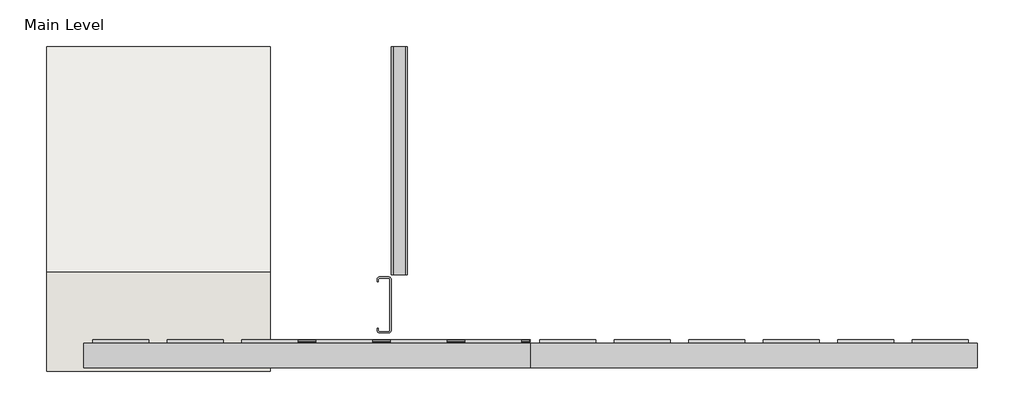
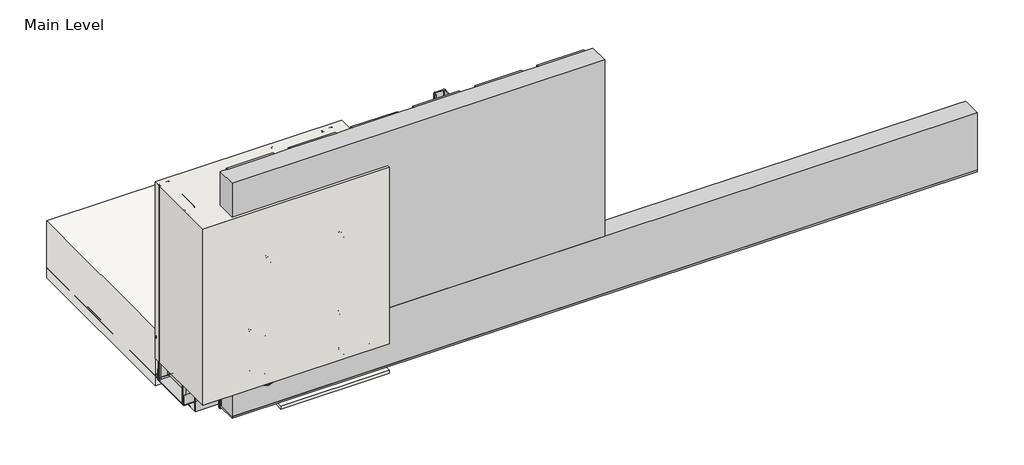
# One storey, incomplete: 18 proxies, 2 coverings, 1 wall.
"""IFC4 building model written with IfcOpenShell, lengths in millimetres."""

from ifc_helpers import new_model, si_unit, frame, origin, origin_with_axes, place, context, project, spatial, polyline, outline, extrude, transform, mapped, element, save
from components import generic_models_9a115d84, generic_models_8c792c9c, generic_models_2e656d56, generic_models_47e8b319, proxy_215900e5, proxy_691c8b69, proxy_63d6b373, soffit_box_soffit_box_c2691520, wood_blocking_c9818c35, wood_blocking_63bdfc83

model = new_model("IFC4")

# Units and contexts
model_context = context("Model", 3, world=origin())
ifc_project = project(units=[si_unit("LENGTHUNIT", "METRE", prefix="MILLI")], contexts=[model_context])

# Site, building, storey
site = spatial("IfcSite", under=ifc_project)
building = spatial("IfcBuilding", under=site)
storey = spatial("IfcBuildingStorey", under=building, Name="Main Level", Elevation=0.0)

# Proxies
placement = place(None, origin())
generic_models_shape = generic_models_9a115d84(model_context)
element("IfcBuildingElementProxy", 1, Name="CRAi Generic Model Metal Stud Array : CRAi Generic Model Metal Stud Array", ObjectType="CRAi Generic Model Metal Stud Array : CRAi Generic Model Metal Stud Array", at=placement, inside=storey, context=model_context, shape_type="MappedRepresentation", body=[
    mapped(generic_models_shape, transform((26692.3726773, 719.7066297, -60.325), x_axis=(-1.0, 0.0, 0.0), y_axis=(0.0, -1.0, 0.0), z_axis=(0.0, 0.0, 1.0))),
])
element("IfcBuildingElementProxy", 2, Name="CRAi Generic Model Metal Stud Array : CRAi Generic Model Metal Stud Array", ObjectType="CRAi Generic Model Metal Stud Array : CRAi Generic Model Metal Stud Array", at=placement, inside=storey, context=model_context, shape_type="MappedRepresentation", body=[
    mapped(generic_models_shape, transform((27225.7726773, 719.7066297, -60.325), x_axis=(-1.0, 0.0, 0.0), y_axis=(0.0, -1.0, 0.0), z_axis=(0.0, 0.0, 1.0))),
])
generic_models_2_shape = generic_models_8c792c9c(model_context)
element("IfcBuildingElementProxy", 3, Name="Durabond Generic Model Screw w Standard Wall Plate : Durabond Generic Model Screw w Standard Wall Plate", ObjectType="Durabond Generic Model Screw w Standard Wall Plate : Durabond Generic Model Screw w Standard Wall Plate", at=placement, inside=storey, context=model_context, shape_type="MappedRepresentation", body=[
    mapped(generic_models_2_shape, transform((26653.4789273, 547.4628797, 47.625), x_axis=(1.0, 0.0, 0.0), y_axis=(0.0, 0.0, 1.0), z_axis=(0.0, -1.0, 0.0))),
])
element("IfcBuildingElementProxy", 4, Name="Durabond Generic Model Screw w Standard Wall Plate : Durabond Generic Model Screw w Standard Wall Plate", ObjectType="Durabond Generic Model Screw w Standard Wall Plate : Durabond Generic Model Screw w Standard Wall Plate", at=placement, inside=storey, context=model_context, shape_type="MappedRepresentation", body=[
    mapped(generic_models_2_shape, transform((26705.0726773, 544.2878797, 15.875), x_axis=(1.0, 0.0, 0.0), y_axis=(0.0, 0.0, 1.0), z_axis=(0.0, -1.0, 0.0))),
])
element("IfcBuildingElementProxy", 5, Name="Durabond Generic Model Screw w Standard Wall Plate : Durabond Generic Model Screw w Standard Wall Plate", ObjectType="Durabond Generic Model Screw w Standard Wall Plate : Durabond Generic Model Screw w Standard Wall Plate", at=placement, inside=storey, context=model_context, shape_type="MappedRepresentation", body=[
    mapped(generic_models_2_shape, transform((26705.0726773, 544.2878797, 149.225), x_axis=(1.0, 0.0, 0.0), y_axis=(0.0, 0.0, 1.0), z_axis=(0.0, -1.0, 0.0))),
])
element("IfcBuildingElementProxy", 6, Name="Durabond Generic Model Screw w Standard Wall Plate : Durabond Generic Model Screw w Standard Wall Plate", ObjectType="Durabond Generic Model Screw w Standard Wall Plate : Durabond Generic Model Screw w Standard Wall Plate", at=placement, inside=storey, context=model_context, shape_type="MappedRepresentation", body=[
    mapped(generic_models_2_shape, transform((26705.0726773, 544.2878797, 428.625), x_axis=(1.0, 0.0, 0.0), y_axis=(0.0, 0.0, 1.0), z_axis=(0.0, -1.0, 0.0))),
])
element("IfcBuildingElementProxy", 7, Name="Durabond Generic Model Screw w Standard Wall Plate : Durabond Generic Model Screw w Standard Wall Plate", ObjectType="Durabond Generic Model Screw w Standard Wall Plate : Durabond Generic Model Screw w Standard Wall Plate", at=placement, inside=storey, context=model_context, shape_type="MappedRepresentation", body=[
    mapped(generic_models_2_shape, transform((26945.5789273, 544.2878797, 428.625), x_axis=(1.0, 0.0, 0.0), y_axis=(0.0, 0.0, 1.0), z_axis=(0.0, -1.0, 0.0))),
])
element("IfcBuildingElementProxy", 8, Name="Durabond Generic Model Screw w Standard Wall Plate : Durabond Generic Model Screw w Standard Wall Plate", ObjectType="Durabond Generic Model Screw w Standard Wall Plate : Durabond Generic Model Screw w Standard Wall Plate", at=placement, inside=storey, context=model_context, shape_type="MappedRepresentation", body=[
    mapped(generic_models_2_shape, transform((26653.4789273, 547.4628797, 193.675), x_axis=(1.0, 0.0, 0.0), y_axis=(0.0, 0.0, 1.0), z_axis=(0.0, -1.0, 0.0))),
])
element("IfcBuildingElementProxy", 9, Name="Durabond Generic Model Screw w Standard Wall Plate : Durabond Generic Model Screw w Standard Wall Plate", ObjectType="Durabond Generic Model Screw w Standard Wall Plate : Durabond Generic Model Screw w Standard Wall Plate", at=placement, inside=storey, context=model_context, shape_type="MappedRepresentation", body=[
    mapped(generic_models_2_shape, transform((26945.5789273, 544.2878797, 149.225), x_axis=(1.0, 0.0, 0.0), y_axis=(0.0, 0.0, 1.0), z_axis=(0.0, -1.0, 0.0))),
])
element("IfcBuildingElementProxy", 10, Name="Durabond Generic Model Screw w Standard Wall Plate : Durabond Generic Model Screw w Standard Wall Plate", ObjectType="Durabond Generic Model Screw w Standard Wall Plate : Durabond Generic Model Screw w Standard Wall Plate", at=placement, inside=storey, context=model_context, shape_type="MappedRepresentation", body=[
    mapped(generic_models_2_shape, transform((26945.5789273, 544.2878797, 23.8125), x_axis=(1.0, 0.0, 0.0), y_axis=(0.0, 0.0, 1.0), z_axis=(0.0, -1.0, 0.0))),
])
generic_models_3_shape = generic_models_2e656d56(model_context)
generic_models_4_shape = generic_models_47e8b319(model_context)
element("IfcBuildingElementProxy", 11, Name="Durabond Generic Soffit Drainage Vent : Durabond Generic Soffit Drainage Vent", ObjectType="Durabond Generic Soffit Drainage Vent : Durabond Generic Soffit Drainage Vent", at=placement, inside=storey, context=model_context, shape_type="MappedRepresentation", body=[
    mapped(generic_models_3_shape, transform((27199.3497774, 619.6941297, -93.6625), x_axis=(1.0, 0.0, 0.0), y_axis=(0.0, 1.0, 0.0), z_axis=(0.0, 0.0, 1.0))),
    mapped(generic_models_4_shape, transform((27199.3497774, 619.6941297, -93.6625), x_axis=(1.0, 0.0, 0.0), y_axis=(0.0, 1.0, 0.0), z_axis=(0.0, 0.0, 1.0))),
])
proxy_shape = proxy_215900e5(model_context)
element("IfcBuildingElementProxy", 12, Name="Durabond Generic Model Insulite Select Extruded Insulation Board : 3\"", ObjectType="Durabond Generic Model Insulite Select Extruded Insulation Board : 3\"", at=placement, inside=storey, context=model_context, shape_type="MappedRepresentation", body=[
    mapped(proxy_shape, transform((27199.5789273, 624.4566297, 422.275), x_axis=(1.0, 0.0, 0.0), y_axis=(0.0, 0.0, 1.0), z_axis=(0.0, -1.0, 0.0))),
])
proxy_2_shape = proxy_691c8b69(model_context)
element("IfcBuildingElementProxy", 13, Name="Durabond Generic Model Insulite Select Extruded Vent Board : 3\"", ObjectType="Durabond Generic Model Insulite Select Extruded Vent Board : 3\"", at=placement, inside=storey, context=model_context, shape_type="MappedRepresentation", body=[
    mapped(proxy_2_shape, transform((27809.1789273, 624.4566297, 15.875), x_axis=(1.0, 0.0, 0.0), y_axis=(0.0, 0.0, 1.0), z_axis=(0.0, -1.0, 0.0))),
])
proxy_3_shape = proxy_63d6b373(model_context)
element("IfcBuildingElementProxy", 14, Name="Durabond Generic Model Corner 90 Membrane : 4\" Barrier Seam Tape", ObjectType="Durabond Generic Model Corner 90 Membrane : 4\" Barrier Seam Tape", at=placement, inside=storey, context=model_context, shape_type="MappedRepresentation", body=[
    mapped(proxy_3_shape, transform((26514.5726773, 627.6316297, -82.55), x_axis=(0.0, 0.0, -1.0), y_axis=(0.0, 1.0, 0.0), z_axis=(1.0, 0.0, 0.0))),
])
soffit_box_soffit_box_shape = soffit_box_soffit_box_c2691520(model_context)
element("IfcBuildingElementProxy", 15, Name="Soffit Box : Soffit Box", ObjectType="Soffit Box : Soffit Box", at=placement, inside=storey, context=model_context, shape_type="MappedRepresentation", body=[
    mapped(soffit_box_soffit_box_shape, transform((0.0, -6.35, 0.0), x_axis=(1.0, 0.0, 0.0), y_axis=(0.0, 1.0, 0.0), z_axis=(0.0, 0.0, 1.0))),
])
element("IfcBuildingElementProxy", 16, Name="Soffit Box1 : Soffit Box", ObjectType="Soffit Box1 : Soffit Box", at=placement, inside=storey, context=model_context, shape_type="MappedRepresentation", body=[
    mapped(soffit_box_soffit_box_shape, transform((533.4, -6.35, 0.0), x_axis=(1.0, 0.0, 0.0), y_axis=(0.0, 1.0, 0.0), z_axis=(0.0, 0.0, 1.0))),
])
wood_blocking_shape = wood_blocking_c9818c35(model_context)
element("IfcBuildingElementProxy", 17, Name="CRAi Generic Model Line Based Metal Framing Track : Wood Blocking", ObjectType="CRAi Generic Model Line Based Metal Framing Track : Wood Blocking", at=placement, inside=storey, context=model_context, shape_type="MappedRepresentation", body=[
    mapped(wood_blocking_shape, transform((26489.1726773, 643.5066297, -66.675), x_axis=(1.0, 0.0, 0.0), y_axis=(0.0, 1.0, 0.0), z_axis=(0.0, 0.0, 1.0))),
])
wood_blocking_2_shape = wood_blocking_63bdfc83(model_context)
element("IfcBuildingElementProxy", 18, Name="CRAi Generic Model Line Based Metal Framing Track : Wood Blocking", ObjectType="CRAi Generic Model Line Based Metal Framing Track : Wood Blocking", at=placement, inside=storey, context=model_context, shape_type="MappedRepresentation", body=[
    mapped(wood_blocking_2_shape, transform((26491.8622441, 795.9066297, 85.725), x_axis=(1.0, 0.0, 0.0), y_axis=(0.0, 0.0, -1.0), z_axis=(0.0, 1.0, 0.0))),
])

# Coverings
element("IfcCovering", 19, ObjectType="Durabond Detail Ceiling 3 Metal Stud", at=placement, inside=storey, context=model_context, shape_type="SweptSolid", body=[
    extrude(outline(polyline([(27098.7726773, 808.6066297), (26489.1726773, 808.6066297), (26489.1726773, 1424.5566297), (27098.7726773, 1424.5566297), (27098.7726773, 808.6066297)])), frame((0.0, 0.0, -95.25), z_axis=(0.0, 0.0, 1.0), x_axis=(1.0, 0.0, 0.0)), (0.0, 0.0, 1.0), 196.85),
])
element("IfcCovering", 20, ObjectType="Durabond Stucco Lamina", at=placement, inside=storey, context=model_context, shape_type="SweptSolid", body=[
    extrude(outline(polyline([(538.7316297, -92.3552522), (614.9316297, -85.688616), (614.9316297, -95.25), (538.7316297, -101.9166362), (538.7316297, -92.3552522)])), frame((26743.1726773, 0.0, 0.0), z_axis=(1.0, 0.0, 0.0), x_axis=(0.0, 1.0, 0.0)), (0.0, 0.0, 1.0), 355.6),
])

# Wall
element("IfcWall", 21, ObjectType="189mm (7.5”) EIFS Field Applied on Mtl. Stud Layer - 50mm Grooved Insulation Board Metal Stud Wall(AirStop) 2", at=placement, inside=storey, context=model_context, shape_type="SweptSolid", body=[
    extrude(outline(polyline([(27098.7726773, 538.7316297), (26489.1726773, 538.7316297), (26489.1726773, 808.6066297), (27098.7726773, 808.6066297), (27098.7726773, 538.7316297)])), origin_with_axes(), (0.0, 0.0, 1.0), 609.6),
])

save(model, "model.ifc")
